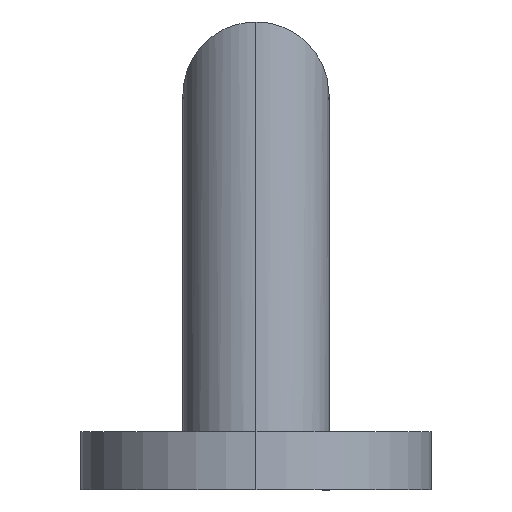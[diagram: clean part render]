
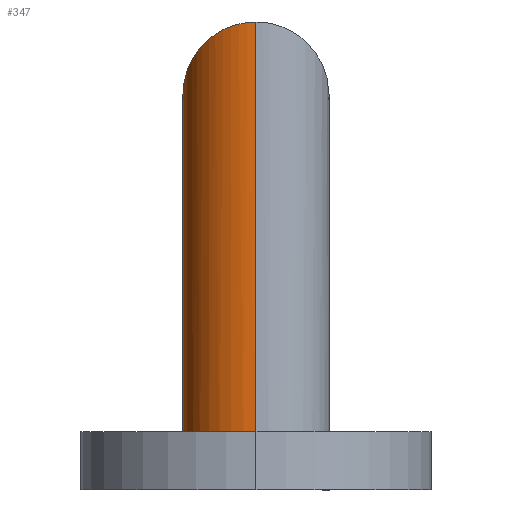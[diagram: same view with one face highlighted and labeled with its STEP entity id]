
A CAD part, left-side view. The second image highlights one B-rep face of the part: STEP entity #347.
In plain terms, the highlighted cylindrical face has radius 12.5 mm (diameter 25 mm), a partial arc.
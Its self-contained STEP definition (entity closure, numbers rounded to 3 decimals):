
#285 = VERTEX_POINT('',#286);
#286 = CARTESIAN_POINT('',(-185.,0.,
    0.));
#287 = VERTEX_POINT('',#288);
#288 = CARTESIAN_POINT('',(-210.,0.,
    0.));
#295 = EDGE_CURVE('',#287,#285,#296,.T.);
#296 = CIRCLE('',#297,12.5);
#297 = AXIS2_PLACEMENT_3D('',#298,#299,#300);
#298 = CARTESIAN_POINT('',(-197.5,0.,
    0.));
#299 = DIRECTION('',(0.,0.,-1.));
#300 = DIRECTION('',(-1.,0.,0.));
#311 = EDGE_CURVE('',#285,#312,#314,.T.);
#312 = VERTEX_POINT('',#313);
#313 = CARTESIAN_POINT('',(-185.,0.,
    55.));
#314 = LINE('',#315,#316);
#315 = CARTESIAN_POINT('',(-185.,0.,
    0.));
#316 = VECTOR('',#317,1.);
#317 = DIRECTION('',(0.,0.,1.));
#329 = VERTEX_POINT('',#330);
#330 = CARTESIAN_POINT('',(-210.,0.,
    80.));
#337 = EDGE_CURVE('',#329,#287,#338,.T.);
#338 = LINE('',#339,#340);
#339 = CARTESIAN_POINT('',(-210.,0.,
    0.));
#340 = VECTOR('',#341,1.);
#341 = DIRECTION('',(0.,0.,-1.));
#347 = ADVANCED_FACE('',(#348),#369,.T.);
#348 = FACE_BOUND('',#349,.T.);
#349 = EDGE_LOOP('',(#350,#351,#352,#361,#368));
#350 = ORIENTED_EDGE('',*,*,#295,.F.);
#351 = ORIENTED_EDGE('',*,*,#337,.F.);
#352 = ORIENTED_EDGE('',*,*,#353,.T.);
#353 = EDGE_CURVE('',#329,#354,#356,.T.);
#354 = VERTEX_POINT('',#355);
#355 = CARTESIAN_POINT('',(-197.5,12.5,
    67.5));
#356 = ELLIPSE('',#357,17.678,12.5);
#357 = AXIS2_PLACEMENT_3D('',#358,#359,#360);
#358 = CARTESIAN_POINT('',(-197.5,0.,
    67.5));
#359 = DIRECTION('',(-0.707,0.,-0.707)
  );
#360 = DIRECTION('',(-0.707,0.,0.707)
  );
#361 = ORIENTED_EDGE('',*,*,#362,.T.);
#362 = EDGE_CURVE('',#354,#312,#363,.T.);
#363 = ELLIPSE('',#364,17.678,12.5);
#364 = AXIS2_PLACEMENT_3D('',#365,#366,#367);
#365 = CARTESIAN_POINT('',(-197.5,0.,
    67.5));
#366 = DIRECTION('',(-0.707,0.,-0.707)
  );
#367 = DIRECTION('',(-0.707,0.,0.707)
  );
#368 = ORIENTED_EDGE('',*,*,#311,.F.);
#369 = CYLINDRICAL_SURFACE('',#370,12.5);
#370 = AXIS2_PLACEMENT_3D('',#371,#372,#373);
#371 = CARTESIAN_POINT('',(-197.5,0.,
    0.));
#372 = DIRECTION('',(0.,0.,-1.));
#373 = DIRECTION('',(-1.,0.,0.));
